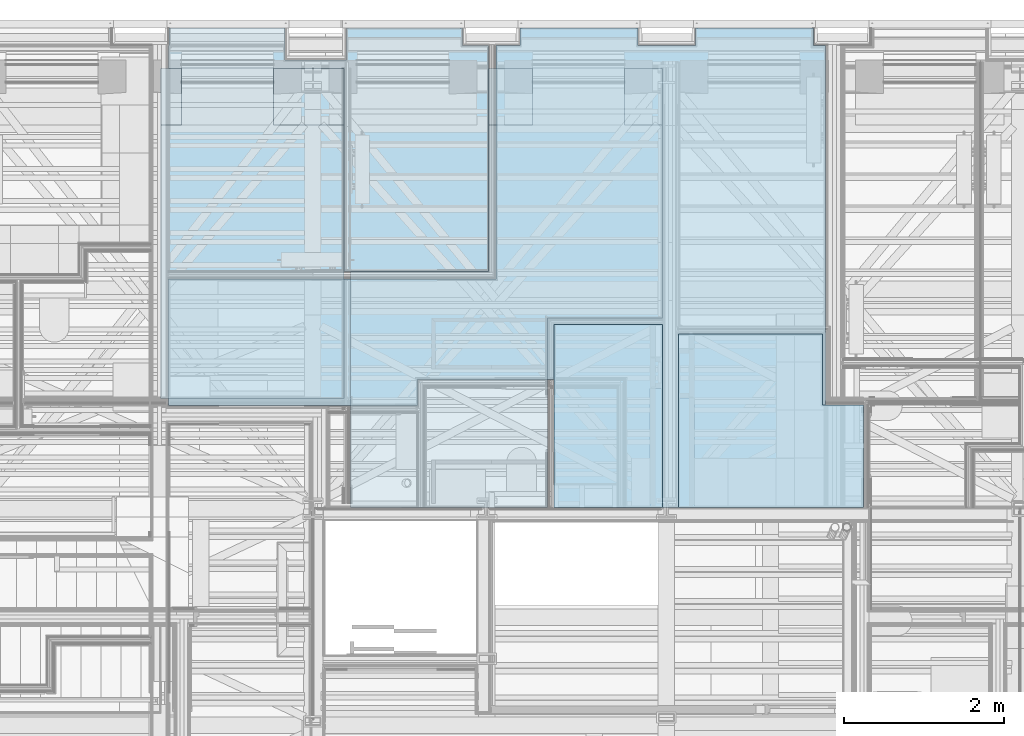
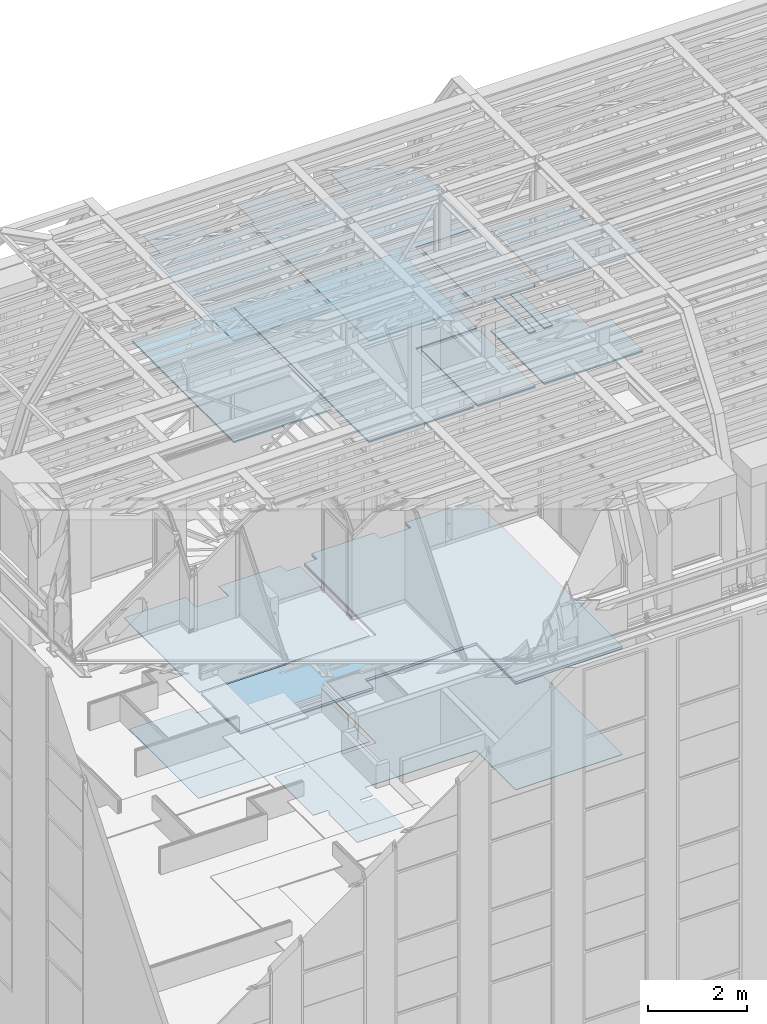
# One storey, part 89 of 183: 23 slabs.
"""IFC2X3 building model written with IfcOpenShell, lengths in metres."""

import ifcopenshell
import ifcopenshell.guid

model = None  # the IFC model being written
_history = None  # IfcOwnerHistory: only IFC2X3 demands one
_inside = {}  # id of a spatial element -> (the spatial element, [elements in it])
_under = {}  # id of a project, library or spatial element -> (it, [spatial elements below it])
_declared = {}  # id of a project -> (the project, [libraries it declares])
_typed = {}  # id of a type object -> (the type object, [elements of that type])
_made_of = {}  # id of a material, layer set ... -> (it, [elements and type objects made of it])


def new_model(schema):
    """Start an empty IFC model of exactly this schema.

    Asked for "IFC4X3", IfcOpenShell would pick the latest addendum, in which some entities
    have other attributes; the version numbers below select the first issue.
    IFC2X3 requires an IfcOwnerHistory on every rooted entity: one is made here for all.
    """
    global model, _history
    if schema == "IFC4X3":
        model = ifcopenshell.file(schema_version=(4, 3, 0, 0))
    else:
        model = ifcopenshell.file(schema=schema)
    _inside.clear()
    _under.clear()
    _declared.clear()
    _typed.clear()
    _made_of.clear()
    _history = None
    if model.schema == "IFC2X3":
        org = make("IfcOrganization", Name="unknown")
        user = make(
            "IfcPersonAndOrganization",
            ThePerson=make("IfcPerson", FamilyName="unknown"),
            TheOrganization=org,
        )
        app = make(
            "IfcApplication",
            ApplicationDeveloper=org,
            Version="unknown",
            ApplicationFullName="unknown",
            ApplicationIdentifier="unknown",
        )
        _history = make(
            "IfcOwnerHistory",
            OwningUser=user,
            OwningApplication=app,
            ChangeAction="ADDED",
            CreationDate=0,
        )
    return model


def make(cls, **values):
    """One entity of the class cls with the attributes given. An attribute that is None is left unset."""
    return model.create_entity(
        cls, **{name: value for name, value in values.items() if value is not None}
    )


def entity(cls, *values):
    """Any entity or typed value of the class cls, its attributes in the order of the schema. None: left unset."""
    e = model.create_entity(cls)
    for i, value in enumerate(values):
        if value is not None:
            e[i] = value
    return e


def rooted(cls, **values):
    """An entity with a GlobalId (a new one), such as an element, a storey or a relation."""
    return make(cls, GlobalId=ifcopenshell.guid.new(), OwnerHistory=_history, **values)


def si_unit(unit_type, name, prefix=None):
    """IfcSIUnit, for example si_unit("LENGTHUNIT", "METRE", prefix="MILLI")."""
    return make("IfcSIUnit", UnitType=unit_type, Prefix=prefix, Name=name)


def converted_unit(unit_type, name, factor, base, dimensions=None, offset=None):
    """IfcConversionBasedUnit, such as the inch: factor (a typed value) times the base unit."""
    return make(
        "IfcConversionBasedUnit"
        if offset is None
        else "IfcConversionBasedUnitWithOffset",
        ConversionOffset=offset,
        Dimensions=None
        if dimensions is None
        else entity("IfcDimensionalExponents", *dimensions),
        UnitType=unit_type,
        Name=name,
        ConversionFactor=make(
            "IfcMeasureWithUnit", ValueComponent=factor, UnitComponent=base
        ),
    )


def derived_unit(unit_type, elements):
    """IfcDerivedUnit: a product of units, each with its exponent."""
    return make(
        "IfcDerivedUnit",
        Elements=[
            make("IfcDerivedUnitElement", Unit=unit, Exponent=power)
            for unit, power in elements
        ],
        UnitType=unit_type,
    )


def money_unit(currency):
    """IfcMonetaryUnit."""
    return make("IfcMonetaryUnit", Currency=currency)


def assignment(units):
    """IfcUnitAssignment: the units of a project."""
    return None if units is None else make("IfcUnitAssignment", Units=units)


def point(xyz):
    """IfcCartesianPoint."""
    return None if xyz is None else make("IfcCartesianPoint", Coordinates=xyz)


def direction(xyz):
    """IfcDirection."""
    return None if xyz is None else make("IfcDirection", DirectionRatios=xyz)


def frame(location, z_axis=None, x_axis=None):
    """IfcAxis2Placement3D, a coordinate frame: its origin and axes. An axis left out is left unset."""
    return make(
        "IfcAxis2Placement3D",
        Location=point(location),
        Axis=direction(z_axis),
        RefDirection=direction(x_axis),
    )


def origin_with_axes():
    """The frame at (0, 0, 0) with the z axis (0, 0, 1) and the x axis (1, 0, 0) written out."""
    return frame((0.0, 0.0, 0.0), z_axis=(0.0, 0.0, 1.0), x_axis=(1.0, 0.0, 0.0))


def place(relative_to, where):
    """IfcLocalPlacement: puts the frame where relative to a parent placement (None: the world)."""
    return make(
        "IfcLocalPlacement", PlacementRelTo=relative_to, RelativePlacement=where
    )


def context(
    kind, dimensions, precision=None, world=None, true_north=None, identifier=None
):
    """IfcGeometricRepresentationContext, for example the 3D "Model" context."""
    return make(
        "IfcGeometricRepresentationContext",
        ContextIdentifier=identifier,
        ContextType=kind,
        CoordinateSpaceDimension=dimensions,
        Precision=precision,
        WorldCoordinateSystem=world,
        TrueNorth=true_north,
    )


def subcontext(parent, identifier, kind, view, scale=None):
    """IfcGeometricRepresentationSubContext, for example "Body" below "Model"."""
    return make(
        "IfcGeometricRepresentationSubContext",
        ContextIdentifier=identifier,
        ContextType=kind,
        ParentContext=parent,
        TargetScale=scale,
        TargetView=view,
    )


def project(units=None, contexts=None):
    """IfcProject with its units and contexts."""
    return rooted(
        "IfcProject",
        Name="project",
        RepresentationContexts=contexts,
        UnitsInContext=assignment(units),
    )


def spatial(cls, under=None, at=None, **own):
    """A site, building, storey or space (cls), placed at a placement, below another one or the project."""
    s = rooted(cls, ObjectPlacement=at, **own)
    if under is not None:
        _under.setdefault(under.id(), (under, []))[1].append(s)
    return s


def faces_of(points, faces, orient=None, outer=None):
    """IfcFace entities. A face is a list of loops; a loop is a list of indices into points, from 0.

    orient and outer hold one flag for each loop. By default every Orientation is true, the
    first loop of a face is its IfcFaceOuterBound and the others are IfcFaceBound.
    """
    made = []
    for i, loops in enumerate(faces):
        bounds = []
        for j, loop in enumerate(loops):
            is_outer = j == 0 if outer is None else outer[i][j]
            bounds.append(
                make(
                    "IfcFaceOuterBound" if is_outer else "IfcFaceBound",
                    Bound=make("IfcPolyLoop", Polygon=[points[k] for k in loop]),
                    Orientation=True if orient is None else orient[i][j],
                )
            )
        made.append(make("IfcFace", Bounds=bounds))
    return made


def faceted_brep(points, faces, orient=None, outer=None, voids=None):
    """IfcFacetedBrep: a solid bounded by flat faces; with voids (closed shells), ...WithVoids."""
    shared = [point(p) for p in points]
    hull = make("IfcClosedShell", CfsFaces=faces_of(shared, faces, orient, outer))
    if voids is None:
        return make("IfcFacetedBrep", Outer=hull)
    return make(
        "IfcFacetedBrepWithVoids",
        Outer=hull,
        Voids=[
            make(cls, CfsFaces=faces_of(shared, fs, o, b)) for cls, fs, o, b in voids
        ],
    )


def shape(context_of_items, identifier, shape_type, items):
    """IfcShapeRepresentation: the items that make up one representation, for example the "Body"."""
    return make(
        "IfcShapeRepresentation",
        ContextOfItems=context_of_items,
        RepresentationIdentifier=identifier,
        RepresentationType=shape_type,
        Items=items,
    )


def material(Name=None, Category=None):
    """IfcMaterial."""
    return make("IfcMaterial", Name=Name, Category=Category)


def made_of(thing, what):
    """Note that an element or type object is made of a material, layer set ...; save() writes the relation."""
    if what is not None:
        _made_of.setdefault(what.id(), (what, []))[1].append(thing)
    return thing


def type_object(cls, material=None, **own):
    """A type object (cls), such as IfcWallType, which elements share."""
    return made_of(rooted(cls, **own), material)


def element(
    cls,
    number,
    at=None,
    inside=None,
    cuts=None,
    type_object=None,
    material=None,
    context=None,
    identifier="Body",
    shape_type=None,
    held_by="IfcProductDefinitionShape",
    body=None,
    shapes=None,
    **own,
):
    """One element of the class cls, such as IfcWall. Its Tag is "e" and its number.

    at: its placement. inside: the storey or other place that contains it. cuts: it is an
    opening in that element (IfcRelVoidsElement). A single representation is given by context,
    identifier, shape_type and body (its items); several are given by shapes. held_by: the class
    of the entity that holds the representations. save() writes the other relations.
    """
    e = rooted(cls, Tag="e%d" % number, ObjectPlacement=at, **own)
    if body is not None:
        shapes = [shape(context, identifier, shape_type, body)]
    if shapes is not None:
        e.Representation = make(held_by, Representations=shapes)
    if inside is not None:
        _inside.setdefault(inside.id(), (inside, []))[1].append(e)
    if cuts is not None:
        rooted(
            "IfcRelVoidsElement", RelatingBuildingElement=cuts, RelatedOpeningElement=e
        )
    if type_object is not None:
        _typed.setdefault(type_object.id(), (type_object, []))[1].append(e)
    return made_of(e, material)


def aggregate(whole, parts):
    """IfcRelAggregates: a whole, such as a stair, and the parts it consists of."""
    return rooted("IfcRelAggregates", RelatingObject=whole, RelatedObjects=parts)


def save(model, path):
    """Write the relations noted so far, then the file.

    IfcRelAggregates (storeys below a building ...), IfcRelContainedInSpatialStructure (elements
    in a storey), IfcRelDefinesByType, IfcRelAssociatesMaterial and IfcRelDeclares: one each for
    every whole, place, type object, material and project.
    """
    for whole, parts in _under.values():
        aggregate(whole, parts)
    for where, things in _inside.values():
        rooted(
            "IfcRelContainedInSpatialStructure",
            RelatedElements=things,
            RelatingStructure=where,
        )
    for kind, things in _typed.values():
        rooted("IfcRelDefinesByType", RelatedObjects=things, RelatingType=kind)
    for what, things in _made_of.values():
        rooted("IfcRelAssociatesMaterial", RelatedObjects=things, RelatingMaterial=what)
    for by, libraries in _declared.values():
        rooted("IfcRelDeclares", RelatingContext=by, RelatedDefinitions=libraries)
    model.write(path)


model = new_model("IFC2X3")

# Units and contexts
model_context = context("Model", 3, precision=1e-05, world=origin_with_axes(), true_north=direction((0.0, 1.0)))
body_context = subcontext(model_context, "Body", "Model", "MODEL_VIEW", scale=1.0)
ifc_project = project(units=[si_unit("LENGTHUNIT", "METRE"), si_unit("AREAUNIT", "SQUARE_METRE"), si_unit("VOLUMEUNIT", "CUBIC_METRE"), si_unit("ABSORBEDDOSEUNIT", "GRAY"), si_unit("AMOUNTOFSUBSTANCEUNIT", "MOLE"), si_unit("DOSEEQUIVALENTUNIT", "SIEVERT"), si_unit("ELECTRICCAPACITANCEUNIT", "FARAD"), si_unit("ELECTRICCHARGEUNIT", "COULOMB"), si_unit("ELECTRICCONDUCTANCEUNIT", "SIEMENS"), si_unit("ELECTRICCURRENTUNIT", "AMPERE"), si_unit("ELECTRICRESISTANCEUNIT", "OHM"), si_unit("ELECTRICVOLTAGEUNIT", "VOLT"), si_unit("ENERGYUNIT", "JOULE"), si_unit("FORCEUNIT", "NEWTON"), si_unit("FREQUENCYUNIT", "HERTZ"), si_unit("ILLUMINANCEUNIT", "LUX"), si_unit("INDUCTANCEUNIT", "HENRY"), si_unit("LUMINOUSFLUXUNIT", "LUMEN"), si_unit("LUMINOUSINTENSITYUNIT", "CANDELA"), si_unit("MAGNETICFLUXDENSITYUNIT", "TESLA"), si_unit("MAGNETICFLUXUNIT", "WEBER"), si_unit("MASSUNIT", "GRAM"), converted_unit("PLANEANGLEUNIT", "degree", entity("IfcReal", 0.0174532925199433), si_unit("PLANEANGLEUNIT", "RADIAN"), dimensions=[0, 0, 0, 0, 0, 0, 0]), si_unit("POWERUNIT", "WATT"), si_unit("PRESSUREUNIT", "PASCAL"), si_unit("RADIOACTIVITYUNIT", "BECQUEREL"), si_unit("SOLIDANGLEUNIT", "STERADIAN"), si_unit("THERMODYNAMICTEMPERATUREUNIT", "KELVIN"), si_unit("TIMEUNIT", "SECOND"), derived_unit("ACCELERATIONUNIT", [(si_unit("LENGTHUNIT", "METRE"), 1), (si_unit("TIMEUNIT", "SECOND"), -2)]), derived_unit("ANGULARVELOCITYUNIT", [(converted_unit("PLANEANGLEUNIT", "degree", entity("IfcReal", 0.0174532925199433), si_unit("PLANEANGLEUNIT", "RADIAN"), dimensions=[0, 0, 0, 0, 0, 0, 0]), 1), (si_unit("TIMEUNIT", "SECOND"), -1)]), derived_unit("CURVATUREUNIT", [(converted_unit("PLANEANGLEUNIT", "degree", entity("IfcReal", 0.0174532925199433), si_unit("PLANEANGLEUNIT", "RADIAN"), dimensions=[0, 0, 0, 0, 0, 0, 0]), 1), (si_unit("LENGTHUNIT", "METRE"), -1)]), derived_unit("DYNAMICVISCOSITYUNIT", [(si_unit("PRESSUREUNIT", "PASCAL"), 1), (si_unit("TIMEUNIT", "SECOND"), 1)]), derived_unit("HEATFLUXDENSITYUNIT", [(si_unit("POWERUNIT", "WATT"), 1), (si_unit("LENGTHUNIT", "METRE"), -2)]), derived_unit("HEATINGVALUEUNIT", [(si_unit("ENERGYUNIT", "JOULE"), 1), (si_unit("MASSUNIT", "GRAM"), -1)]), derived_unit("INTEGERCOUNTRATEUNIT", [(si_unit("TIMEUNIT", "SECOND"), -1)]), derived_unit("IONCONCENTRATIONUNIT", [(si_unit("MASSUNIT", "GRAM"), 1), (si_unit("VOLUMEUNIT", "CUBIC_METRE"), -1)]), derived_unit("ISOTHERMALMOISTURECAPACITYUNIT", [(si_unit("VOLUMEUNIT", "CUBIC_METRE"), 1), (si_unit("MASSUNIT", "GRAM"), -1)]), derived_unit("KINEMATICVISCOSITYUNIT", [(si_unit("AREAUNIT", "SQUARE_METRE"), 1), (si_unit("TIMEUNIT", "SECOND"), -1)]), derived_unit("LINEARFORCEUNIT", [(si_unit("FORCEUNIT", "NEWTON"), 1), (si_unit("LENGTHUNIT", "METRE"), -1)]), derived_unit("LINEARMOMENTUNIT", [(si_unit("FORCEUNIT", "NEWTON"), 1), (si_unit("LENGTHUNIT", "METRE"), -1)]), derived_unit("LINEARSTIFFNESSUNIT", [(si_unit("FORCEUNIT", "NEWTON"), 1), (si_unit("LENGTHUNIT", "METRE"), -1)]), derived_unit("LINEARVELOCITYUNIT", [(si_unit("LENGTHUNIT", "METRE"), 1), (si_unit("TIMEUNIT", "SECOND"), -1)]), derived_unit("LUMINOUSINTENSITYDISTRIBUTIONUNIT", [(si_unit("LUMINOUSINTENSITYUNIT", "CANDELA"), 1), (si_unit("LUMINOUSFLUXUNIT", "LUMEN"), -1)]), derived_unit("MASSDENSITYUNIT", [(si_unit("MASSUNIT", "GRAM"), 1), (si_unit("VOLUMEUNIT", "CUBIC_METRE"), -1)]), derived_unit("MASSFLOWRATEUNIT", [(si_unit("MASSUNIT", "GRAM"), 1), (si_unit("TIMEUNIT", "SECOND"), -1)]), derived_unit("MASSPERLENGTHUNIT", [(si_unit("MASSUNIT", "GRAM"), 1), (si_unit("LENGTHUNIT", "METRE"), -1)]), derived_unit("MODULUSOFELASTICITYUNIT", [(si_unit("FORCEUNIT", "NEWTON"), 1), (si_unit("AREAUNIT", "SQUARE_METRE"), -1)]), derived_unit("MODULUSOFLINEARSUBGRADEREACTIONUNIT", [(si_unit("FORCEUNIT", "NEWTON"), 1), (si_unit("LENGTHUNIT", "METRE"), -2)]), derived_unit("MODULUSOFROTATIONALSUBGRADEREACTIONUNIT", [(si_unit("FORCEUNIT", "NEWTON"), 1), (si_unit("LENGTHUNIT", "METRE"), 1)]), derived_unit("MODULUSOFSUBGRADEREACTIONUNIT", [(si_unit("FORCEUNIT", "NEWTON"), 1), (si_unit("VOLUMEUNIT", "CUBIC_METRE"), -1)]), derived_unit("MOISTUREDIFFUSIVITYUNIT", [(si_unit("VOLUMEUNIT", "CUBIC_METRE"), 1), (si_unit("TIMEUNIT", "SECOND"), -1)]), derived_unit("MOLECULARWEIGHTUNIT", [(si_unit("MASSUNIT", "GRAM"), 1), (si_unit("AMOUNTOFSUBSTANCEUNIT", "MOLE"), -1)]), derived_unit("PLANARFORCEUNIT", [(si_unit("FORCEUNIT", "NEWTON"), 1), (si_unit("LENGTHUNIT", "METRE"), -2)]), derived_unit("ROTATIONALFREQUENCYUNIT", [(si_unit("TIMEUNIT", "SECOND"), -1)]), derived_unit("ROTATIONALMASSUNIT", [(si_unit("MASSUNIT", "GRAM"), 1), (si_unit("LENGTHUNIT", "METRE"), 2)]), derived_unit("ROTATIONALSTIFFNESSUNIT", [(si_unit("FORCEUNIT", "NEWTON"), 1), (si_unit("LENGTHUNIT", "METRE"), 1), (converted_unit("PLANEANGLEUNIT", "degree", entity("IfcReal", 0.0174532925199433), si_unit("PLANEANGLEUNIT", "RADIAN"), dimensions=[0, 0, 0, 0, 0, 0, 0]), -1)]), derived_unit("SECTIONAREAINTEGRALUNIT", [(si_unit("LENGTHUNIT", "METRE"), 5)]), derived_unit("SECTIONMODULUSUNIT", [(si_unit("LENGTHUNIT", "METRE"), 3)]), derived_unit("SHEARMODULUSUNIT", [(si_unit("FORCEUNIT", "NEWTON"), 1), (si_unit("AREAUNIT", "SQUARE_METRE"), -1)]), derived_unit("SOUNDPOWERUNIT", [(si_unit("ENERGYUNIT", "JOULE"), 1), (si_unit("TIMEUNIT", "SECOND"), -1)]), derived_unit("SPECIFICHEATCAPACITYUNIT", [(si_unit("FORCEUNIT", "NEWTON"), 1), (si_unit("MASSUNIT", "GRAM"), -1), (si_unit("THERMODYNAMICTEMPERATUREUNIT", "KELVIN"), -1)]), derived_unit("TEMPERATUREGRADIENTUNIT", [(si_unit("THERMODYNAMICTEMPERATUREUNIT", "KELVIN"), 1), (si_unit("LENGTHUNIT", "METRE"), -1)]), derived_unit("THERMALADMITTANCEUNIT", [(si_unit("POWERUNIT", "WATT"), 1), (si_unit("AREAUNIT", "SQUARE_METRE"), -1), (si_unit("THERMODYNAMICTEMPERATUREUNIT", "KELVIN"), -1)]), derived_unit("THERMALCONDUCTANCEUNIT", [(si_unit("POWERUNIT", "WATT"), 1), (si_unit("LENGTHUNIT", "METRE"), -1), (si_unit("THERMODYNAMICTEMPERATUREUNIT", "KELVIN"), -1)]), derived_unit("THERMALEXPANSIONCOEFFICIENTUNIT", [(si_unit("THERMODYNAMICTEMPERATUREUNIT", "KELVIN"), -1)]), derived_unit("THERMALRESISTANCEUNIT", [(si_unit("AREAUNIT", "SQUARE_METRE"), 1), (si_unit("POWERUNIT", "WATT"), -1)]), derived_unit("THERMALTRANSMITTANCEUNIT", [(si_unit("POWERUNIT", "WATT"), 1), (si_unit("AREAUNIT", "SQUARE_METRE"), -1), (si_unit("THERMODYNAMICTEMPERATUREUNIT", "KELVIN"), -1)]), derived_unit("TORQUEUNIT", [(si_unit("FORCEUNIT", "NEWTON"), 1), (si_unit("LENGTHUNIT", "METRE"), 1)]), derived_unit("VAPORPERMEABILITYUNIT", [(si_unit("MASSUNIT", "GRAM"), 1), (si_unit("TIMEUNIT", "SECOND"), -1)]), derived_unit("VOLUMETRICFLOWRATEUNIT", [(si_unit("VOLUMEUNIT", "CUBIC_METRE"), 1), (si_unit("TIMEUNIT", "SECOND"), -1)]), derived_unit("WARPINGCONSTANTUNIT", [(si_unit("LENGTHUNIT", "METRE"), 6)]), derived_unit("WARPINGMOMENTUNIT", [(si_unit("FORCEUNIT", "NEWTON"), 1), (si_unit("LENGTHUNIT", "METRE"), 2)]), money_unit("GBP")], contexts=[model_context])

# Site, building, storey
site_placement = place(None, origin_with_axes())
site = spatial("IfcSite", under=ifc_project, at=site_placement, Name="Site", CompositionType="ELEMENT")
building_placement = place(site_placement, origin_with_axes())
building = spatial("IfcBuilding", under=site, at=building_placement, Name="Building01", CompositionType="ELEMENT")
storey_placement = place(building_placement, frame((0.0, 0.0, 5.15), z_axis=(0.0, 0.0, 1.0), x_axis=(1.0, 0.0, 0.0)))
storey = spatial("IfcBuildingStorey", under=building, at=storey_placement, Name="1F", CompositionType="ELEMENT", Elevation=5.15)

# Slabs
ifc_material_1 = material(Name="A_BSUK_Parquet_Floor")
slab_type_1 = type_object("IfcSlabType", Name="A-FloorsSlabs A_BSUK_Slabs", PredefinedType="FLOOR")
placement = place(storey_placement, frame((0.0, 0.0, -5.15), z_axis=(0.0, 0.0, 1.0), x_axis=(1.0, 0.0, 0.0)))
element("IfcSlab", 1, at=placement, inside=storey, type_object=slab_type_1, material=ifc_material_1, Name="A-FloorsSlabs A_BSUK_Slabs", ObjectType="CompoundSlabLeaf", context=body_context, shape_type="Brep", body=[
    faceted_brep([(9.285, 9.200704, 5.153), (9.285, 9.200704, 5.165), (9.285, 9.992662, 5.165), (9.285, 9.992662, 5.153), (9.285, 8.82, 5.153), (9.285, 8.82, 5.165), (10.393585, 8.82, 5.153), (10.393585, 8.82, 5.165), (10.393585, 9.992704, 5.153), (10.393585, 9.992704, 5.165), (10.086871, 9.992704, 5.153), (10.086871, 9.992704, 5.165), (10.086871, 10.087704, 5.153), (10.086871, 10.087704, 5.165), (10.393871, 10.087704, 5.153), (10.393871, 10.087704, 5.165), (10.393871, 10.415, 5.153), (10.393871, 10.415, 5.165), (12.988585, 10.415, 5.153), (12.988585, 10.415, 5.165), (12.988585, 8.82, 5.153), (12.988585, 8.82, 5.165), (15.483132, 8.82, 5.153), (15.483132, 8.82, 5.165), (15.483132, 14.582, 5.153), (15.483132, 14.582, 5.165), (15.335, 14.582, 5.153), (15.335, 14.582, 5.165), (15.335, 14.8, 5.153), (15.335, 14.8, 5.165), (13.865, 14.8, 5.153), (13.865, 14.8, 5.165), (13.865, 14.582, 5.153), (13.865, 14.582, 5.165), (13.145, 14.582, 5.153), (13.145, 14.582, 5.165), (13.145, 14.8, 5.153), (13.145, 14.8, 5.165), (11.675, 14.8, 5.153), (11.675, 14.8, 5.165), (11.675, 14.582, 5.153), (11.675, 14.582, 5.165), (11.375, 14.582, 5.153), (11.375, 14.582, 5.165), (11.375, 11.668124, 5.153), (11.375, 11.668124, 5.165), (10.611, 11.668124, 5.153), (10.611, 11.668124, 5.165), (10.611, 11.763124, 5.153), (10.611, 11.763124, 5.165), (9.711, 11.763124, 5.153), (9.711, 11.763124, 5.165), (9.711, 11.668124, 5.153), (9.711, 11.668124, 5.165), (8.995, 11.668124, 5.153), (8.995, 11.668124, 5.165), (8.995, 10.087704, 5.153), (8.995, 10.087704, 5.165), (9.09, 10.087704, 5.153), (9.09, 10.087704, 5.165), (9.336871, 10.087704, 5.153), (9.336871, 10.087704, 5.165), (9.336871, 9.992704, 5.153), (9.336871, 9.992704, 5.165)], [[[0, 1, 2, 3]], [[4, 5, 1, 0]], [[6, 7, 5, 4]], [[8, 9, 7, 6]], [[10, 11, 9, 8]], [[12, 13, 11, 10]], [[14, 15, 13, 12]], [[16, 17, 15, 14]], [[18, 19, 17, 16]], [[20, 21, 19, 18]], [[22, 23, 21, 20]], [[24, 25, 23, 22]], [[26, 27, 25, 24]], [[28, 29, 27, 26]], [[30, 31, 29, 28]], [[32, 33, 31, 30]], [[34, 35, 33, 32]], [[36, 37, 35, 34]], [[38, 39, 37, 36]], [[40, 41, 39, 38]], [[42, 43, 41, 40]], [[44, 45, 43, 42]], [[46, 47, 45, 44]], [[48, 49, 47, 46]], [[50, 51, 49, 48]], [[52, 53, 51, 50]], [[54, 55, 53, 52]], [[56, 57, 55, 54]], [[58, 59, 57, 56]], [[60, 61, 59, 58]], [[62, 63, 61, 60]], [[3, 2, 63, 62]], [[1, 5, 7, 9, 11, 13, 15, 17, 19, 21, 23, 25, 27, 29, 31, 33, 35, 37, 39, 41, 43, 45, 47, 49, 51, 53, 55, 57, 59, 61, 63, 2]], [[3, 62, 60, 58, 56, 54, 52, 50, 48, 46, 44, 42, 40, 38, 36, 34, 32, 30, 28, 26, 24, 22, 20, 18, 16, 14, 12, 10, 8, 6, 4, 0]]]),
])
ifc_material_2 = material(Name="A_BSUK_Carpet-Pile")
element("IfcSlab", 2, at=placement, inside=storey, type_object=slab_type_1, material=ifc_material_2, Name="A-FloorsSlabs A_BSUK_Slabs", ObjectType="CompoundSlabLeaf", context=body_context, shape_type="Brep", body=[
    faceted_brep([(7.289669, 11.763124, 5.153), (7.289669, 11.763124, 5.165), (7.289669, 14.582, 5.165), (7.289669, 14.582, 5.153), (8.995, 11.763124, 5.153), (8.995, 11.763124, 5.165), (11.28, 11.763124, 5.153), (11.28, 11.763124, 5.165), (11.28, 14.582, 5.153), (11.28, 14.582, 5.165), (10.955, 14.582, 5.153), (10.955, 14.582, 5.165), (10.955, 14.8, 5.153), (10.955, 14.8, 5.165), (9.508, 14.8, 5.153), (9.508, 14.8, 5.165), (9.508, 14.402, 5.153), (9.508, 14.402, 5.165), (8.742, 14.402, 5.153), (8.742, 14.402, 5.165), (8.742, 14.582, 5.153), (8.742, 14.582, 5.165), (7.295, 14.582, 5.153), (7.295, 14.582, 5.165)], [[[0, 1, 2, 3]], [[4, 5, 1, 0]], [[6, 7, 5, 4]], [[8, 9, 7, 6]], [[10, 11, 9, 8]], [[12, 13, 11, 10]], [[14, 15, 13, 12]], [[16, 17, 15, 14]], [[18, 19, 17, 16]], [[20, 21, 19, 18]], [[22, 23, 21, 20]], [[3, 2, 23, 22]], [[1, 5, 7, 9, 11, 13, 15, 17, 19, 21, 23, 2]], [[3, 22, 20, 18, 16, 14, 12, 10, 8, 6, 4, 0]]]),
])
ifc_material_3 = material(Name="A_BSUK_CeilingSoffitFinishes_Suspended")
element("IfcSlab", 3, at=placement, inside=storey, type_object=slab_type_1, material=ifc_material_3, Name="A-FloorsSlabs A_BSUK_Slabs", ObjectType="CompoundSlabLeaf", context=body_context, shape_type="Brep", body=[
    faceted_brep([(12.988585, 10.415, 7.765), (12.988585, 10.415, 7.78), (10.393871, 10.415, 7.78), (10.393871, 10.415, 7.765), (12.988585, 8.82, 7.765), (12.988585, 8.82, 7.78), (15.483132, 8.82, 7.765), (15.483132, 8.82, 7.78), (15.483132, 14.582, 7.765), (15.483132, 14.582, 7.78), (15.335, 14.582, 7.765), (15.335, 14.582, 7.78), (15.335, 14.8, 7.765), (15.335, 14.8, 7.78), (13.865, 14.8, 7.765), (13.865, 14.8, 7.78), (13.865, 14.582, 7.765), (13.865, 14.582, 7.78), (13.145, 14.582, 7.765), (13.145, 14.582, 7.78), (13.145, 14.8, 7.765), (13.145, 14.8, 7.78), (11.675, 14.8, 7.765), (11.675, 14.8, 7.78), (11.675, 14.582, 7.765), (11.675, 14.582, 7.78), (11.375, 14.582, 7.765), (11.375, 14.582, 7.78), (11.375, 11.668124, 7.765), (11.375, 11.668124, 7.78), (10.653, 11.668124, 7.765), (10.653, 11.668124, 7.78), (9.642, 11.668124, 7.765), (9.642, 11.668124, 7.78), (7.289669, 11.668124, 7.765), (7.289669, 11.668124, 7.78), (7.289669, 10.087704, 7.765), (7.289669, 10.087704, 7.78), (10.393871, 10.087704, 7.765), (10.393871, 10.087704, 7.78)], [[[0, 1, 2, 3]], [[4, 5, 1, 0]], [[6, 7, 5, 4]], [[8, 9, 7, 6]], [[10, 11, 9, 8]], [[12, 13, 11, 10]], [[14, 15, 13, 12]], [[16, 17, 15, 14]], [[18, 19, 17, 16]], [[20, 21, 19, 18]], [[22, 23, 21, 20]], [[24, 25, 23, 22]], [[26, 27, 25, 24]], [[28, 29, 27, 26]], [[30, 31, 29, 28]], [[32, 33, 31, 30]], [[34, 35, 33, 32]], [[36, 37, 35, 34]], [[38, 39, 37, 36]], [[3, 2, 39, 38]], [[1, 5, 7, 9, 11, 13, 15, 17, 19, 21, 23, 25, 27, 29, 31, 33, 35, 37, 39, 2]], [[3, 38, 36, 34, 32, 30, 28, 26, 24, 22, 20, 18, 16, 14, 12, 10, 8, 6, 4, 0]]]),
])
element("IfcSlab", 4, at=placement, inside=storey, type_object=slab_type_1, material=ifc_material_3, Name="A-FloorsSlabs A_BSUK_Slabs", ObjectType="CompoundSlabLeaf", context=body_context, shape_type="Brep", body=[
    faceted_brep([(7.289669, 12.013124, 7.765), (7.289669, 12.013124, 7.78), (7.289669, 14.582, 7.78), (7.289669, 14.582, 7.765), (7.289669, 11.763124, 7.765), (7.289669, 11.763124, 7.78), (11.28, 11.763124, 7.765), (11.28, 11.763124, 7.78), (11.28, 14.582, 7.765), (11.28, 14.582, 7.78), (10.955, 14.582, 7.765), (10.955, 14.582, 7.78), (10.955, 14.8, 7.765), (10.955, 14.8, 7.78), (9.508, 14.8, 7.765), (9.508, 14.8, 7.78), (9.508, 14.402, 7.765), (9.508, 14.402, 7.78), (8.742, 14.402, 7.765), (8.742, 14.402, 7.78), (8.742, 14.8, 7.765), (8.742, 14.8, 7.78), (7.295, 14.8, 7.765), (7.295, 14.8, 7.78), (7.295, 14.582, 7.765), (7.295, 14.582, 7.78)], [[[0, 1, 2, 3]], [[4, 5, 1, 0]], [[6, 7, 5, 4]], [[8, 9, 7, 6]], [[10, 11, 9, 8]], [[12, 13, 11, 10]], [[14, 15, 13, 12]], [[16, 17, 15, 14]], [[18, 19, 17, 16]], [[20, 21, 19, 18]], [[22, 23, 21, 20]], [[24, 25, 23, 22]], [[3, 2, 25, 24]], [[1, 5, 7, 9, 11, 13, 15, 17, 19, 21, 23, 25, 2]], [[3, 24, 22, 20, 18, 16, 14, 12, 10, 8, 6, 4, 0]]]),
])
ifc_material_4 = material(Name="A_BSUK_Ceramic_WallTiles")
element("IfcSlab", 5, at=placement, inside=storey, type_object=slab_type_1, material=ifc_material_4, Name="A-FloorsSlabs A_BSUK_Slabs", ObjectType="CompoundSlabLeaf", context=body_context, shape_type="Brep", body=[
    faceted_brep([(13.45, 8.82, 16.305), (13.45, 8.82, 16.33), (13.297256, 8.82, 16.33), (13.297256, 8.82, 16.305), (13.45, 10.303849, 16.305), (13.45, 10.303849, 16.33), (13.297393, 10.303849, 16.305), (13.297393, 10.303849, 16.33)], [[[0, 1, 2, 3]], [[4, 5, 1, 0]], [[6, 7, 5, 4]], [[3, 2, 7, 6]], [[1, 5, 7, 2]], [[3, 6, 4, 0]]]),
])
element("IfcSlab", 6, at=placement, inside=storey, type_object=slab_type_1, material=ifc_material_4, Name="A-FloorsSlabs A_BSUK_Slabs", ObjectType="CompoundSlabLeaf", context=body_context, shape_type="Brep", body=[
    faceted_brep([(13.849998, 8.82, 16.305), (13.849998, 8.82, 16.33), (13.65, 8.82, 16.33), (13.65, 8.82, 16.305), (13.849998, 10.185441, 16.305), (13.849998, 10.185441, 16.33), (13.65, 10.185441, 16.305), (13.65, 10.185441, 16.33)], [[[0, 1, 2, 3]], [[4, 5, 1, 0]], [[6, 7, 5, 4]], [[3, 2, 7, 6]], [[1, 5, 7, 2]], [[3, 6, 4, 0]]]),
])
element("IfcSlab", 7, at=placement, inside=storey, type_object=slab_type_1, material=ifc_material_3, Name="A-FloorsSlabs A_BSUK_Slabs", ObjectType="CompoundSlabLeaf", context=body_context, shape_type="Brep", body=[
    faceted_brep([(9.480024, 10.179939, 17.423), (9.480024, 10.179939, 17.438), (7.190024, 10.179939, 17.438), (7.190024, 10.179939, 17.423), (9.480024, 13.587598, 17.423), (9.480024, 13.587598, 17.438), (8.600024, 13.587598, 17.423), (8.600024, 13.587598, 17.438), (8.600024, 14.300061, 17.423), (8.600024, 14.300061, 17.438), (7.450024, 14.300061, 17.423), (7.450024, 14.300061, 17.438), (7.450024, 13.587598, 17.423), (7.450024, 13.587598, 17.438), (7.190024, 13.587598, 17.423), (7.190024, 13.587598, 17.438)], [[[0, 1, 2, 3]], [[4, 5, 1, 0]], [[6, 7, 5, 4]], [[8, 9, 7, 6]], [[10, 11, 9, 8]], [[12, 13, 11, 10]], [[14, 15, 13, 12]], [[3, 2, 15, 14]], [[1, 5, 7, 9, 11, 13, 15, 2]], [[3, 14, 12, 10, 8, 6, 4, 0]]]),
])
element("IfcSlab", 8, at=placement, inside=storey, type_object=slab_type_1, material=ifc_material_3, Name="A-FloorsSlabs A_BSUK_Slabs", ObjectType="CompoundSlabLeaf", context=body_context, shape_type="Brep", body=[
    faceted_brep([(12.017381, 8.82, 17.423), (12.017381, 8.82, 17.438), (9.560024, 8.82, 17.438), (9.560024, 8.82, 17.423), (12.017381, 11.183849, 17.423), (12.017381, 11.183849, 17.438), (13.45, 11.183849, 17.423), (13.45, 11.183849, 17.438), (13.45, 13.587598, 17.423), (13.45, 13.587598, 17.438), (12.979976, 13.587598, 17.423), (12.979976, 13.587598, 17.438), (12.979976, 14.300061, 17.423), (12.979976, 14.300061, 17.438), (11.830024, 14.300061, 17.423), (11.830024, 14.300061, 17.438), (11.830024, 13.587598, 17.423), (11.830024, 13.587598, 17.438), (10.789976, 13.587598, 17.423), (10.789976, 13.587598, 17.438), (10.789976, 14.300061, 17.423), (10.789976, 14.300061, 17.438), (9.640024, 14.300061, 17.423), (9.640024, 14.300061, 17.438), (9.640024, 13.587598, 17.423), (9.640024, 13.587598, 17.438), (9.560024, 13.587598, 17.423), (9.560024, 13.587598, 17.438)], [[[0, 1, 2, 3]], [[4, 5, 1, 0]], [[6, 7, 5, 4]], [[8, 9, 7, 6]], [[10, 11, 9, 8]], [[12, 13, 11, 10]], [[14, 15, 13, 12]], [[16, 17, 15, 14]], [[18, 19, 17, 16]], [[20, 21, 19, 18]], [[22, 23, 21, 20]], [[24, 25, 23, 22]], [[26, 27, 25, 24]], [[3, 2, 27, 26]], [[1, 5, 7, 9, 11, 13, 15, 17, 19, 21, 23, 25, 27, 2]], [[3, 26, 24, 22, 20, 18, 16, 14, 12, 10, 8, 6, 4, 0]]]),
])
element("IfcSlab", 9, at=placement, inside=storey, type_object=slab_type_1, material=ifc_material_3, Name="A-FloorsSlabs A_BSUK_Slabs", ObjectType="CompoundSlabLeaf", context=body_context, shape_type="Brep", body=[
    faceted_brep([(12.097381, 8.82, 17.423), (12.097381, 8.82, 17.438), (12.097381, 11.103849, 17.438), (12.097381, 11.103849, 17.423), (13.297256, 8.82, 17.423), (13.297256, 8.82, 17.438), (13.45, 8.82, 17.423), (13.45, 8.82, 17.438), (13.45, 11.103849, 17.423), (13.45, 11.103849, 17.438)], [[[0, 1, 2, 3]], [[4, 5, 1, 0]], [[6, 7, 5, 4]], [[8, 9, 7, 6]], [[3, 2, 9, 8]], [[1, 5, 7, 9, 2]], [[3, 8, 6, 4, 0]]]),
])
element("IfcSlab", 10, at=placement, inside=storey, type_object=slab_type_1, material=ifc_material_3, Name="A-FloorsSlabs A_BSUK_Slabs", ObjectType="CompoundSlabLeaf", context=body_context, shape_type="Brep", body=[
    faceted_brep([(13.65, 8.82, 17.423), (13.65, 8.82, 17.438), (13.65, 10.983789, 17.438), (13.65, 10.983789, 17.423), (15.95844, 8.82, 17.423), (15.95844, 8.82, 17.438), (15.95844, 10.099939, 17.423), (15.95844, 10.099939, 17.438), (15.449998, 10.099939, 17.423), (15.449998, 10.099939, 17.438), (15.449998, 10.983789, 17.423), (15.449998, 10.983789, 17.438)], [[[0, 1, 2, 3]], [[4, 5, 1, 0]], [[6, 7, 5, 4]], [[8, 9, 7, 6]], [[10, 11, 9, 8]], [[3, 2, 11, 10]], [[1, 5, 7, 9, 11, 2]], [[3, 10, 8, 6, 4, 0]]]),
])
ifc_material_5 = material(Name="A_BSUK_ExpandedPolystyreneBoards")
element("IfcSlab", 11, at=placement, inside=storey, type_object=slab_type_1, material=ifc_material_5, Name="A-FloorsSlabs A_BSUK_Slabs", ObjectType="CompoundSlabLeaf", context=body_context, shape_type="Brep", body=[
    faceted_brep([(9.480024, 10.179939, 14.92), (9.480024, 10.179939, 14.952), (7.190024, 10.179939, 14.952), (7.190024, 10.179939, 14.92), (9.480024, 14.2962, 14.92), (9.480024, 14.2962, 14.952), (8.600024, 14.2962, 14.92), (8.600024, 14.2962, 14.952), (7.450024, 14.2962, 14.92), (7.450024, 14.2962, 14.952), (7.190024, 14.2962, 14.92), (7.190024, 14.2962, 14.952)], [[[0, 1, 2, 3]], [[4, 5, 1, 0]], [[6, 7, 5, 4]], [[8, 9, 7, 6]], [[10, 11, 9, 8]], [[3, 2, 11, 10]], [[1, 5, 7, 9, 11, 2]], [[3, 10, 8, 6, 4, 0]]]),
])
element("IfcSlab", 12, at=placement, inside=storey, type_object=slab_type_1, material=ifc_material_5, Name="A-FloorsSlabs A_BSUK_Slabs", ObjectType="CompoundSlabLeaf", context=body_context, shape_type="Brep", body=[
    faceted_brep([(12.017381, 8.82, 14.92), (12.017381, 8.82, 14.952), (9.560024, 8.82, 14.952), (9.560024, 8.82, 14.92), (12.017381, 11.183849, 14.92), (12.017381, 11.183849, 14.952), (13.45, 11.183849, 14.92), (13.45, 11.183849, 14.952), (13.45, 14.2962, 14.92), (13.45, 14.2962, 14.952), (12.979976, 14.2962, 14.92), (12.979976, 14.2962, 14.952), (11.830024, 14.2962, 14.92), (11.830024, 14.2962, 14.952), (10.789976, 14.2962, 14.92), (10.789976, 14.2962, 14.952), (9.640024, 14.2962, 14.92), (9.640024, 14.2962, 14.952), (9.560024, 14.2962, 14.92), (9.560024, 14.2962, 14.952)], [[[0, 1, 2, 3]], [[4, 5, 1, 0]], [[6, 7, 5, 4]], [[8, 9, 7, 6]], [[10, 11, 9, 8]], [[12, 13, 11, 10]], [[14, 15, 13, 12]], [[16, 17, 15, 14]], [[18, 19, 17, 16]], [[3, 2, 19, 18]], [[1, 5, 7, 9, 11, 13, 15, 17, 19, 2]], [[3, 18, 16, 14, 12, 10, 8, 6, 4, 0]]]),
])
element("IfcSlab", 13, at=placement, inside=storey, type_object=slab_type_1, material=ifc_material_5, Name="A-FloorsSlabs A_BSUK_Slabs", ObjectType="CompoundSlabLeaf", context=body_context, shape_type="Brep", body=[
    faceted_brep([(12.097381, 8.82, 14.92), (12.097381, 8.82, 14.952), (12.097381, 11.103849, 14.952), (12.097381, 11.103849, 14.92), (13.297256, 8.82, 14.92), (13.297256, 8.82, 14.952), (13.45, 8.82, 14.92), (13.45, 8.82, 14.952), (13.45, 11.103849, 14.92), (13.45, 11.103849, 14.952)], [[[0, 1, 2, 3]], [[4, 5, 1, 0]], [[6, 7, 5, 4]], [[8, 9, 7, 6]], [[3, 2, 9, 8]], [[1, 5, 7, 9, 2]], [[3, 8, 6, 4, 0]]]),
])
element("IfcSlab", 14, at=placement, inside=storey, type_object=slab_type_1, material=ifc_material_5, Name="A-FloorsSlabs A_BSUK_Slabs", ObjectType="CompoundSlabLeaf", context=body_context, shape_type="Brep", body=[
    faceted_brep([(13.65, 8.82, 14.92), (13.65, 8.82, 14.952), (13.65, 10.983789, 14.952), (13.65, 10.983789, 14.92), (15.95844, 8.82, 14.92), (15.95844, 8.82, 14.952), (15.95844, 10.099939, 14.92), (15.95844, 10.099939, 14.952), (15.449998, 10.099939, 14.92), (15.449998, 10.099939, 14.952), (15.449998, 10.983789, 14.92), (15.449998, 10.983789, 14.952)], [[[0, 1, 2, 3]], [[4, 5, 1, 0]], [[6, 7, 5, 4]], [[8, 9, 7, 6]], [[10, 11, 9, 8]], [[3, 2, 11, 10]], [[1, 5, 7, 9, 11, 2]], [[3, 10, 8, 6, 4, 0]]]),
])
element("IfcSlab", 15, at=placement, inside=storey, type_object=slab_type_1, material=ifc_material_3, Name="A-FloorsSlabs A_BSUK_Slabs", ObjectType="CompoundSlabLeaf", context=body_context, shape_type="Brep", body=[
    faceted_brep([(9.480024, 10.179939, 17.438), (9.480024, 10.179939, 17.453), (7.190024, 10.179939, 17.453), (7.190024, 10.179939, 17.438), (9.480024, 13.587598, 17.438), (9.480024, 13.587598, 17.453), (8.600024, 13.587598, 17.438), (8.600024, 13.587598, 17.453), (8.600024, 14.300061, 17.438), (8.600024, 14.300061, 17.453), (7.450024, 14.300061, 17.438), (7.450024, 14.300061, 17.453), (7.450024, 13.587598, 17.438), (7.450024, 13.587598, 17.453), (7.190024, 13.587598, 17.438), (7.190024, 13.587598, 17.453)], [[[0, 1, 2, 3]], [[4, 5, 1, 0]], [[6, 7, 5, 4]], [[8, 9, 7, 6]], [[10, 11, 9, 8]], [[12, 13, 11, 10]], [[14, 15, 13, 12]], [[3, 2, 15, 14]], [[1, 5, 7, 9, 11, 13, 15, 2]], [[3, 14, 12, 10, 8, 6, 4, 0]]]),
])
element("IfcSlab", 16, at=placement, inside=storey, type_object=slab_type_1, material=ifc_material_3, Name="A-FloorsSlabs A_BSUK_Slabs", ObjectType="CompoundSlabLeaf", context=body_context, shape_type="Brep", body=[
    faceted_brep([(12.017381, 8.82, 17.438), (12.017381, 8.82, 17.453), (9.560024, 8.82, 17.453), (9.560024, 8.82, 17.438), (12.017381, 11.183849, 17.438), (12.017381, 11.183849, 17.453), (13.45, 11.183849, 17.438), (13.45, 11.183849, 17.453), (13.45, 13.587598, 17.438), (13.45, 13.587598, 17.453), (12.979976, 13.587598, 17.438), (12.979976, 13.587598, 17.453), (12.979976, 14.300061, 17.438), (12.979976, 14.300061, 17.453), (11.830024, 14.300061, 17.438), (11.830024, 14.300061, 17.453), (11.830024, 13.587598, 17.438), (11.830024, 13.587598, 17.453), (10.789976, 13.587598, 17.438), (10.789976, 13.587598, 17.453), (10.789976, 14.300061, 17.438), (10.789976, 14.300061, 17.453), (9.640024, 14.300061, 17.438), (9.640024, 14.300061, 17.453), (9.640024, 13.587598, 17.438), (9.640024, 13.587598, 17.453), (9.560024, 13.587598, 17.438), (9.560024, 13.587598, 17.453)], [[[0, 1, 2, 3]], [[4, 5, 1, 0]], [[6, 7, 5, 4]], [[8, 9, 7, 6]], [[10, 11, 9, 8]], [[12, 13, 11, 10]], [[14, 15, 13, 12]], [[16, 17, 15, 14]], [[18, 19, 17, 16]], [[20, 21, 19, 18]], [[22, 23, 21, 20]], [[24, 25, 23, 22]], [[26, 27, 25, 24]], [[3, 2, 27, 26]], [[1, 5, 7, 9, 11, 13, 15, 17, 19, 21, 23, 25, 27, 2]], [[3, 26, 24, 22, 20, 18, 16, 14, 12, 10, 8, 6, 4, 0]]]),
])
element("IfcSlab", 17, at=placement, inside=storey, type_object=slab_type_1, material=ifc_material_3, Name="A-FloorsSlabs A_BSUK_Slabs", ObjectType="CompoundSlabLeaf", context=body_context, shape_type="Brep", body=[
    faceted_brep([(12.097381, 8.82, 17.438), (12.097381, 8.82, 17.453), (12.097381, 11.103849, 17.453), (12.097381, 11.103849, 17.438), (13.297256, 8.82, 17.438), (13.297256, 8.82, 17.453), (13.45, 8.82, 17.438), (13.45, 8.82, 17.453), (13.45, 11.103849, 17.438), (13.45, 11.103849, 17.453)], [[[0, 1, 2, 3]], [[4, 5, 1, 0]], [[6, 7, 5, 4]], [[8, 9, 7, 6]], [[3, 2, 9, 8]], [[1, 5, 7, 9, 2]], [[3, 8, 6, 4, 0]]]),
])
element("IfcSlab", 18, at=placement, inside=storey, type_object=slab_type_1, material=ifc_material_3, Name="A-FloorsSlabs A_BSUK_Slabs", ObjectType="CompoundSlabLeaf", context=body_context, shape_type="Brep", body=[
    faceted_brep([(13.65, 8.82, 17.438), (13.65, 8.82, 17.453), (13.65, 10.983789, 17.453), (13.65, 10.983789, 17.438), (15.95844, 8.82, 17.438), (15.95844, 8.82, 17.453), (15.95844, 10.099939, 17.438), (15.95844, 10.099939, 17.453), (15.449998, 10.099939, 17.438), (15.449998, 10.099939, 17.453), (15.449998, 10.983789, 17.438), (15.449998, 10.983789, 17.453)], [[[0, 1, 2, 3]], [[4, 5, 1, 0]], [[6, 7, 5, 4]], [[8, 9, 7, 6]], [[10, 11, 9, 8]], [[3, 2, 11, 10]], [[1, 5, 7, 9, 11, 2]], [[3, 10, 8, 6, 4, 0]]]),
])
ifc_material_6 = material(Name="A_BSUK_Ceramic_FloorTiles")
slab_type_2 = type_object("IfcSlabType", Name="A-Finishes A_BSUK_Ceramic_FloorTiles", PredefinedType="FLOOR")
element("IfcSlab", 19, at=placement, inside=storey, type_object=slab_type_2, material=ifc_material_6, Name="A-Finishes A_BSUK_Ceramic_FloorTiles", ObjectType="CompoundSlabLeaf", context=body_context, shape_type="Brep", body=[
    faceted_brep([(12.097381, 8.82, 14.952), (12.097381, 8.82, 14.964), (12.097381, 11.103849, 14.964), (12.097381, 11.103849, 14.952), (13.297256, 8.82, 14.952), (13.297256, 8.82, 14.964), (13.45, 8.82, 14.952), (13.45, 8.82, 14.964), (13.45, 11.103849, 14.952), (13.45, 11.103849, 14.964)], [[[0, 1, 2, 3]], [[4, 5, 1, 0]], [[6, 7, 5, 4]], [[8, 9, 7, 6]], [[3, 2, 9, 8]], [[1, 5, 7, 9, 2]], [[3, 8, 6, 4, 0]]]),
])
element("IfcSlab", 20, at=placement, inside=storey, type_object=slab_type_2, material=ifc_material_6, Name="A-Finishes A_BSUK_Ceramic_FloorTiles", ObjectType="CompoundSlabLeaf", context=body_context, shape_type="Brep", body=[
    faceted_brep([(13.65, 8.82, 14.952), (13.65, 8.82, 14.964), (13.65, 10.983789, 14.964), (13.65, 10.983789, 14.952), (15.95844, 8.82, 14.952), (15.95844, 8.82, 14.964), (15.95844, 10.099939, 14.952), (15.95844, 10.099939, 14.964), (15.449998, 10.099939, 14.952), (15.449998, 10.099939, 14.964), (15.449998, 10.983789, 14.952), (15.449998, 10.983789, 14.964)], [[[0, 1, 2, 3]], [[4, 5, 1, 0]], [[6, 7, 5, 4]], [[8, 9, 7, 6]], [[10, 11, 9, 8]], [[3, 2, 11, 10]], [[1, 5, 7, 9, 11, 2]], [[3, 10, 8, 6, 4, 0]]]),
])
slab_type_3 = type_object("IfcSlabType", Name="A-FloorsSlabs A_BSUK_ExpandedPolystyreneBoards", PredefinedType="FLOOR")
element("IfcSlab", 21, at=placement, inside=storey, type_object=slab_type_3, material=ifc_material_5, Name="A-FloorsSlabs A_BSUK_ExpandedPolystyreneBoards", ObjectType="CompoundSlabLeaf", context=body_context, shape_type="Brep", body=[
    faceted_brep([(12.988585, 10.415, 7.78), (12.988585, 10.415, 7.83), (10.393871, 10.415, 7.83), (10.393871, 10.415, 7.78), (12.988585, 8.82, 7.78), (12.988585, 8.82, 7.83), (15.483132, 8.82, 7.78), (15.483132, 8.82, 7.83), (15.483132, 14.582, 7.78), (15.483132, 14.582, 7.83), (15.335, 14.582, 7.78), (15.335, 14.582, 7.83), (15.335, 14.8, 7.78), (15.335, 14.8, 7.83), (13.865, 14.8, 7.78), (13.865, 14.8, 7.83), (13.865, 14.582, 7.78), (13.865, 14.582, 7.83), (13.145, 14.582, 7.78), (13.145, 14.582, 7.83), (13.145, 14.8, 7.78), (13.145, 14.8, 7.83), (11.675, 14.8, 7.78), (11.675, 14.8, 7.83), (11.675, 14.582, 7.78), (11.675, 14.582, 7.83), (11.375, 14.582, 7.78), (11.375, 14.582, 7.83), (11.375, 11.668124, 7.78), (11.375, 11.668124, 7.83), (10.653, 11.668124, 7.78), (10.653, 11.668124, 7.83), (9.642, 11.668124, 7.78), (9.642, 11.668124, 7.83), (7.289669, 11.668124, 7.78), (7.289669, 11.668124, 7.83), (7.289669, 10.087704, 7.78), (7.289669, 10.087704, 7.83), (10.393871, 10.087704, 7.78), (10.393871, 10.087704, 7.83)], [[[0, 1, 2, 3]], [[4, 5, 1, 0]], [[6, 7, 5, 4]], [[8, 9, 7, 6]], [[10, 11, 9, 8]], [[12, 13, 11, 10]], [[14, 15, 13, 12]], [[16, 17, 15, 14]], [[18, 19, 17, 16]], [[20, 21, 19, 18]], [[22, 23, 21, 20]], [[24, 25, 23, 22]], [[26, 27, 25, 24]], [[28, 29, 27, 26]], [[30, 31, 29, 28]], [[32, 33, 31, 30]], [[34, 35, 33, 32]], [[36, 37, 35, 34]], [[38, 39, 37, 36]], [[3, 2, 39, 38]], [[1, 5, 7, 9, 11, 13, 15, 17, 19, 21, 23, 25, 27, 29, 31, 33, 35, 37, 39, 2]], [[3, 38, 36, 34, 32, 30, 28, 26, 24, 22, 20, 18, 16, 14, 12, 10, 8, 6, 4, 0]]]),
])
slab_type_4 = type_object("IfcSlabType", Name="A-Finishes A_BSUK_Carpet-Pile", PredefinedType="FLOOR")
element("IfcSlab", 22, at=placement, inside=storey, type_object=slab_type_4, material=ifc_material_2, Name="A-Finishes A_BSUK_Carpet-Pile", ObjectType="CompoundSlabLeaf", context=body_context, shape_type="Brep", body=[
    faceted_brep([(9.480024, 10.179939, 14.952), (9.480024, 10.179939, 14.964), (7.190024, 10.179939, 14.964), (7.190024, 10.179939, 14.952), (9.480024, 14.2962, 14.952), (9.480024, 14.2962, 14.964), (8.600024, 14.2962, 14.952), (8.600024, 14.2962, 14.964), (7.450024, 14.2962, 14.952), (7.450024, 14.2962, 14.964), (7.190024, 14.2962, 14.952), (7.190024, 14.2962, 14.964)], [[[0, 1, 2, 3]], [[4, 5, 1, 0]], [[6, 7, 5, 4]], [[8, 9, 7, 6]], [[10, 11, 9, 8]], [[3, 2, 11, 10]], [[1, 5, 7, 9, 11, 2]], [[3, 10, 8, 6, 4, 0]]]),
])
element("IfcSlab", 23, at=placement, inside=storey, type_object=slab_type_4, material=ifc_material_2, Name="A-Finishes A_BSUK_Carpet-Pile", ObjectType="CompoundSlabLeaf", context=body_context, shape_type="Brep", body=[
    faceted_brep([(12.017381, 8.82, 14.952), (12.017381, 8.82, 14.964), (9.560024, 8.82, 14.964), (9.560024, 8.82, 14.952), (12.017381, 11.183849, 14.952), (12.017381, 11.183849, 14.964), (13.45, 11.183849, 14.952), (13.45, 11.183849, 14.964), (13.45, 14.2962, 14.952), (13.45, 14.2962, 14.964), (12.979976, 14.2962, 14.952), (12.979976, 14.2962, 14.964), (11.830024, 14.2962, 14.952), (11.830024, 14.2962, 14.964), (10.789976, 14.2962, 14.952), (10.789976, 14.2962, 14.964), (9.640024, 14.2962, 14.952), (9.640024, 14.2962, 14.964), (9.560024, 14.2962, 14.952), (9.560024, 14.2962, 14.964)], [[[0, 1, 2, 3]], [[4, 5, 1, 0]], [[6, 7, 5, 4]], [[8, 9, 7, 6]], [[10, 11, 9, 8]], [[12, 13, 11, 10]], [[14, 15, 13, 12]], [[16, 17, 15, 14]], [[18, 19, 17, 16]], [[3, 2, 19, 18]], [[1, 5, 7, 9, 11, 13, 15, 17, 19, 2]], [[3, 18, 16, 14, 12, 10, 8, 6, 4, 0]]]),
])

save(model, "model.ifc")
